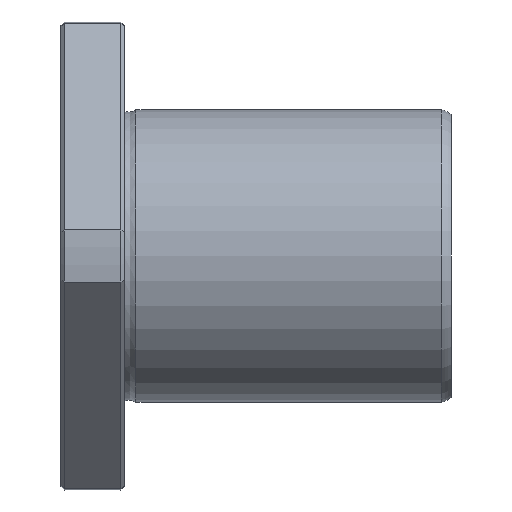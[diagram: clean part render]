
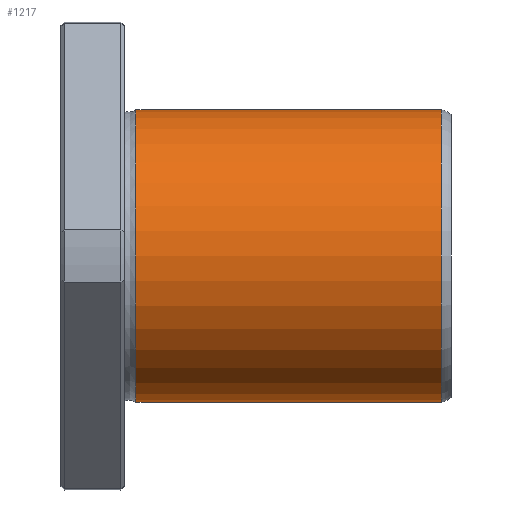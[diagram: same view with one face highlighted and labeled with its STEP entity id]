
A CAD part, front view. The second image highlights one B-rep face of the part: STEP entity #1217.
In plain terms, the highlighted cylindrical face has radius 30 mm (diameter 60 mm), a full revolution.
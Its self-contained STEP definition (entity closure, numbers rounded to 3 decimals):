
#1183=CARTESIAN_POINT('',(78.016,0.0,30.));
#1184=VERTEX_POINT('',#1183);
#1185=CARTESIAN_POINT('',(78.016,0.0,0.0));
#1186=DIRECTION('',(-1.0,0.0,0.0));
#1187=DIRECTION('',(0.0,0.0,1.0));
#1188=AXIS2_PLACEMENT_3D('',#1185,#1186,#1187);
#1189=CIRCLE('',#1188,30.);
#1190=EDGE_CURVE('',#1184,#1184,#1189,.T.);
#1198=CARTESIAN_POINT('',(46.708,0.0,0.0));
#1199=DIRECTION('',(-1.0,0.0,0.0));
#1200=DIRECTION('',(0.0,0.0,1.0));
#1201=AXIS2_PLACEMENT_3D('',#1198,#1199,#1200);
#1202=CYLINDRICAL_SURFACE('',#1201,30.);
#1203=CARTESIAN_POINT('',(15.4,0.0,30.));
#1204=VERTEX_POINT('',#1203);
#1205=CARTESIAN_POINT('',(15.4,0.0,0.0));
#1206=DIRECTION('',(-1.0,0.0,0.0));
#1207=DIRECTION('',(0.0,0.0,1.0));
#1208=AXIS2_PLACEMENT_3D('',#1205,#1206,#1207);
#1209=CIRCLE('',#1208,30.);
#1210=EDGE_CURVE('',#1204,#1204,#1209,.T.);
#1211=ORIENTED_EDGE('',*,*,#1210,.F.);
#1212=EDGE_LOOP('',(#1211));
#1213=FACE_OUTER_BOUND('',#1212,.T.);
#1214=ORIENTED_EDGE('',*,*,#1190,.T.);
#1215=EDGE_LOOP('',(#1214));
#1216=FACE_BOUND('',#1215,.T.);
#1217=ADVANCED_FACE('',(#1213,#1216),#1202,.T.);
